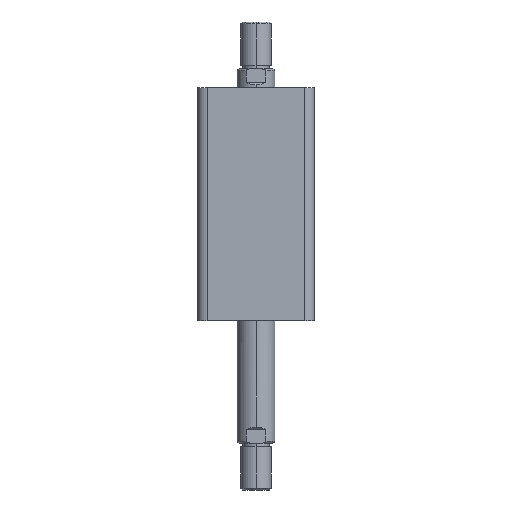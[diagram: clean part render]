
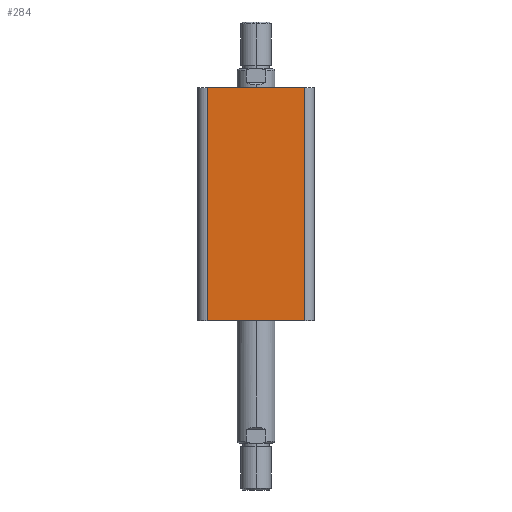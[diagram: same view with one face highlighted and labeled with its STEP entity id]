
A CAD part, left-side view. The second image highlights one B-rep face of the part: STEP entity #284.
In plain terms, the highlighted planar face has unit normal (-1, 0, 0).
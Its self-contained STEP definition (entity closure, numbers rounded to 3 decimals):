
#219 = LINE ( 'NONE', #477, #228 ) ;
#223 = LINE ( 'NONE', #488, #226 ) ;
#226 = VECTOR ( 'NONE', #489, 1000. ) ;
#227 = LINE ( 'NONE', #491, #230 ) ;
#228 = VECTOR ( 'NONE', #490, 1000. ) ;
#229 = LINE ( 'NONE', #493, #232 ) ;
#230 = VECTOR ( 'NONE', #492, 1000. ) ;
#232 = VECTOR ( 'NONE', #494, 1000. ) ;
#284 = ADVANCED_FACE ( 'NONE', ( #3302 ), #2482, .F. ) ;
#477 = CARTESIAN_POINT ( 'NONE',  ( -31., -26., 124. ) ) ;
#488 = CARTESIAN_POINT ( 'NONE',  ( -31., 31., 0. ) ) ;
#489 = DIRECTION ( 'NONE',  ( 0., -1., 0. ) ) ;
#490 = DIRECTION ( 'NONE',  ( 0., 0., 1. ) ) ;
#491 = CARTESIAN_POINT ( 'NONE',  ( -31., 31., 124. ) ) ;
#492 = DIRECTION ( 'NONE',  ( 0., -1., 0. ) ) ;
#493 = CARTESIAN_POINT ( 'NONE',  ( -31., 26., 124. ) ) ;
#494 = DIRECTION ( 'NONE',  ( 0., 0., -1. ) ) ;
#996 = EDGE_CURVE ( 'NONE', #3301, #3278, #223, .T. ) ;
#997 = EDGE_CURVE ( 'NONE', #3278, #3299, #219, .T. ) ;
#998 = EDGE_CURVE ( 'NONE', #3300, #3299, #227, .T. ) ;
#999 = EDGE_CURVE ( 'NONE', #3300, #3301, #229, .T. ) ;
#1039 = AXIS2_PLACEMENT_3D ( 'NONE', #2485, #2488, #2486 ) ;
#2330 = EDGE_LOOP ( 'NONE', ( #2472, #2473, #2474, #2475 ) ) ;
#2472 = ORIENTED_EDGE ( 'NONE', *, *, #996, .T. ) ;
#2473 = ORIENTED_EDGE ( 'NONE', *, *, #997, .T. ) ;
#2474 = ORIENTED_EDGE ( 'NONE', *, *, #998, .F. ) ;
#2475 = ORIENTED_EDGE ( 'NONE', *, *, #999, .T. ) ;
#2482 = PLANE ( 'NONE',  #1039 ) ;
#2485 = CARTESIAN_POINT ( 'NONE',  ( -31., 31., 124. ) ) ;
#2486 = DIRECTION ( 'NONE',  ( 0., 1., 0. ) ) ;
#2488 = DIRECTION ( 'NONE',  ( 1., 0., 0. ) ) ;
#3059 = CARTESIAN_POINT ( 'NONE',  ( -31., -26., 0. ) ) ;
#3077 = CARTESIAN_POINT ( 'NONE',  ( -31., -26., 124. ) ) ;
#3078 = CARTESIAN_POINT ( 'NONE',  ( -31., 26., 124. ) ) ;
#3079 = CARTESIAN_POINT ( 'NONE',  ( -31., 26., 0. ) ) ;
#3278 = VERTEX_POINT ( 'NONE', #3059 ) ;
#3299 = VERTEX_POINT ( 'NONE', #3077 ) ;
#3300 = VERTEX_POINT ( 'NONE', #3078 ) ;
#3301 = VERTEX_POINT ( 'NONE', #3079 ) ;
#3302 = FACE_OUTER_BOUND ( 'NONE', #2330, .T. ) ;
